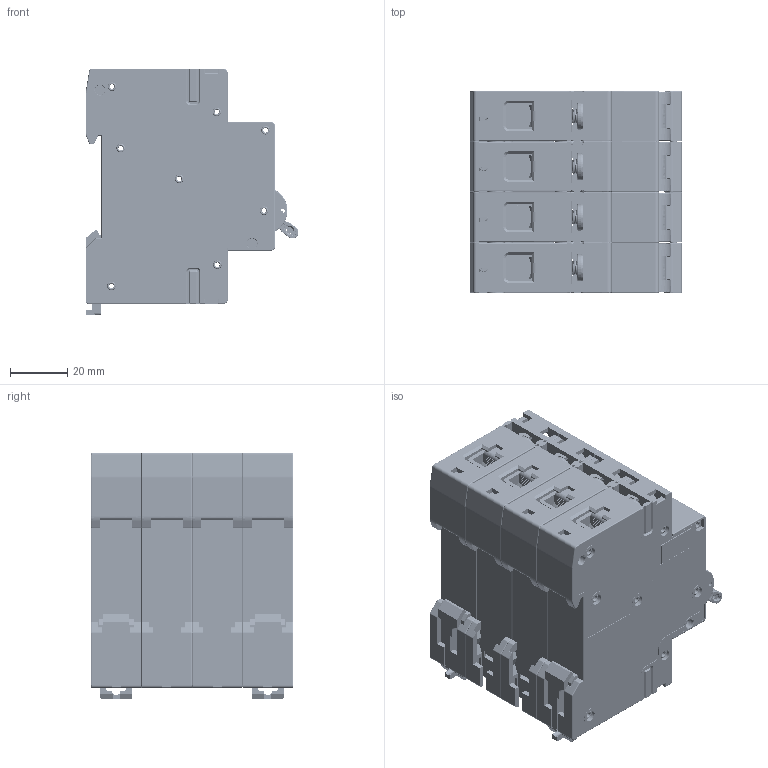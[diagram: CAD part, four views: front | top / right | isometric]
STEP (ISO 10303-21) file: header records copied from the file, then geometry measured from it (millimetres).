
FILE_DESCRIPTION (( 'STEP AP214' ), '1' );
FILE_NAME ('TDA-4B-2.STEP', '2026-05-26T12:55:34', ( '' ), ( '' ), 'SwSTEP 2.0', 'SolidWorks 2025', '' );
FILE_SCHEMA (( 'AUTOMOTIVE_DESIGN' ));
Length unit declared in the file: millimetre
Products named in the file (1): TDA-4B-2
Bounding box: 74.14 x 70.6 x 86 mm (x, y, z)
Volume: 114391.7 mm3; surface area: 168618.6 mm2
Topology: 91 solids, 99 shells, 9807 faces, 28327 edges, 18923 vertices
Faces by surface type: plane 5535, cylinder 3060, bspline 596, torus 352, cone 264
Entity records: 539358 total; most frequent: CARTESIAN_POINT 180442, ORIENTED_EDGE 56526, DIRECTION 46527, EDGE_CURVE 28263, VERTEX_POINT 18923, LINE 17455, VECTOR 17455, AXIS2_PLACEMENT_3D 14536
